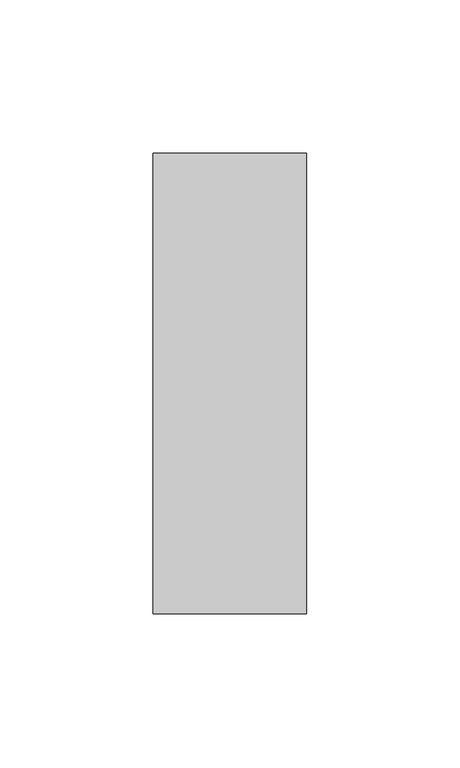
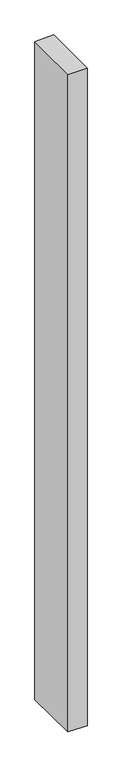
"""IFC4 building model written with IfcOpenShell, lengths in millimetres: member geometry, Прямоугольный импост : 50 x 150 мм."""

import ifcopenshell
import ifcopenshell.guid

model = None  # the IFC model being written
_history = None  # IfcOwnerHistory: only IFC2X3 demands one
_inside = {}  # id of a spatial element -> (the spatial element, [elements in it])
_under = {}  # id of a project, library or spatial element -> (it, [spatial elements below it])
_declared = {}  # id of a project -> (the project, [libraries it declares])
_typed = {}  # id of a type object -> (the type object, [elements of that type])
_made_of = {}  # id of a material, layer set ... -> (it, [elements and type objects made of it])


def new_model(schema):
    """Start an empty IFC model of exactly this schema.

    Asked for "IFC4X3", IfcOpenShell would pick the latest addendum, in which some entities
    have other attributes; the version numbers below select the first issue.
    IFC2X3 requires an IfcOwnerHistory on every rooted entity: one is made here for all.
    """
    global model, _history
    if schema == "IFC4X3":
        model = ifcopenshell.file(schema_version=(4, 3, 0, 0))
    else:
        model = ifcopenshell.file(schema=schema)
    _inside.clear()
    _under.clear()
    _declared.clear()
    _typed.clear()
    _made_of.clear()
    _history = None
    if model.schema == "IFC2X3":
        org = make("IfcOrganization", Name="unknown")
        user = make(
            "IfcPersonAndOrganization",
            ThePerson=make("IfcPerson", FamilyName="unknown"),
            TheOrganization=org,
        )
        app = make(
            "IfcApplication",
            ApplicationDeveloper=org,
            Version="unknown",
            ApplicationFullName="unknown",
            ApplicationIdentifier="unknown",
        )
        _history = make(
            "IfcOwnerHistory",
            OwningUser=user,
            OwningApplication=app,
            ChangeAction="ADDED",
            CreationDate=0,
        )
    return model


def make(cls, **values):
    """One entity of the class cls with the attributes given. An attribute that is None is left unset."""
    return model.create_entity(
        cls, **{name: value for name, value in values.items() if value is not None}
    )


def rooted(cls, **values):
    """An entity with a GlobalId (a new one), such as an element, a storey or a relation."""
    return make(cls, GlobalId=ifcopenshell.guid.new(), OwnerHistory=_history, **values)


def si_unit(unit_type, name, prefix=None):
    """IfcSIUnit, for example si_unit("LENGTHUNIT", "METRE", prefix="MILLI")."""
    return make("IfcSIUnit", UnitType=unit_type, Prefix=prefix, Name=name)


def assignment(units):
    """IfcUnitAssignment: the units of a project."""
    return None if units is None else make("IfcUnitAssignment", Units=units)


def point(xyz):
    """IfcCartesianPoint."""
    return None if xyz is None else make("IfcCartesianPoint", Coordinates=xyz)


def direction(xyz):
    """IfcDirection."""
    return None if xyz is None else make("IfcDirection", DirectionRatios=xyz)


def frame(location, z_axis=None, x_axis=None):
    """IfcAxis2Placement3D, a coordinate frame: its origin and axes. An axis left out is left unset."""
    return make(
        "IfcAxis2Placement3D",
        Location=point(location),
        Axis=direction(z_axis),
        RefDirection=direction(x_axis),
    )


def origin():
    """The frame at (0, 0, 0) with its axes left unset."""
    return frame((0.0, 0.0, 0.0))


def place(relative_to, where):
    """IfcLocalPlacement: puts the frame where relative to a parent placement (None: the world)."""
    return make(
        "IfcLocalPlacement", PlacementRelTo=relative_to, RelativePlacement=where
    )


def context(
    kind, dimensions, precision=None, world=None, true_north=None, identifier=None
):
    """IfcGeometricRepresentationContext, for example the 3D "Model" context."""
    return make(
        "IfcGeometricRepresentationContext",
        ContextIdentifier=identifier,
        ContextType=kind,
        CoordinateSpaceDimension=dimensions,
        Precision=precision,
        WorldCoordinateSystem=world,
        TrueNorth=true_north,
    )


def project(units=None, contexts=None):
    """IfcProject with its units and contexts."""
    return rooted(
        "IfcProject",
        Name="project",
        RepresentationContexts=contexts,
        UnitsInContext=assignment(units),
    )


def spatial(cls, under=None, at=None, **own):
    """A site, building, storey or space (cls), placed at a placement, below another one or the project."""
    s = rooted(cls, ObjectPlacement=at, **own)
    if under is not None:
        _under.setdefault(under.id(), (under, []))[1].append(s)
    return s


def faces_of(points, faces, orient=None, outer=None):
    """IfcFace entities. A face is a list of loops; a loop is a list of indices into points, from 0.

    orient and outer hold one flag for each loop. By default every Orientation is true, the
    first loop of a face is its IfcFaceOuterBound and the others are IfcFaceBound.
    """
    made = []
    for i, loops in enumerate(faces):
        bounds = []
        for j, loop in enumerate(loops):
            is_outer = j == 0 if outer is None else outer[i][j]
            bounds.append(
                make(
                    "IfcFaceOuterBound" if is_outer else "IfcFaceBound",
                    Bound=make("IfcPolyLoop", Polygon=[points[k] for k in loop]),
                    Orientation=True if orient is None else orient[i][j],
                )
            )
        made.append(make("IfcFace", Bounds=bounds))
    return made


def faceted_brep(points, faces, orient=None, outer=None, voids=None):
    """IfcFacetedBrep: a solid bounded by flat faces; with voids (closed shells), ...WithVoids."""
    shared = [point(p) for p in points]
    hull = make("IfcClosedShell", CfsFaces=faces_of(shared, faces, orient, outer))
    if voids is None:
        return make("IfcFacetedBrep", Outer=hull)
    return make(
        "IfcFacetedBrepWithVoids",
        Outer=hull,
        Voids=[
            make(cls, CfsFaces=faces_of(shared, fs, o, b)) for cls, fs, o, b in voids
        ],
    )


def shape(context_of_items, identifier, shape_type, items):
    """IfcShapeRepresentation: the items that make up one representation, for example the "Body"."""
    return make(
        "IfcShapeRepresentation",
        ContextOfItems=context_of_items,
        RepresentationIdentifier=identifier,
        RepresentationType=shape_type,
        Items=items,
    )


def source(mapping_origin, context_of_items, identifier, shape_type, items):
    """IfcRepresentationMap: a shape defined once, which mapped items show again and again."""
    return make(
        "IfcRepresentationMap",
        MappingOrigin=mapping_origin,
        MappedRepresentation=shape(context_of_items, identifier, shape_type, items),
    )


def transform(
    local_origin,
    x_axis=None,
    y_axis=None,
    z_axis=None,
    scale=None,
    scale2=None,
    scale3=None,
    uniform=True,
):
    """IfcCartesianTransformationOperator3D, or its non-uniform kind. x_axis, y_axis, z_axis: its Axis1, 2, 3."""
    if uniform:
        return make(
            "IfcCartesianTransformationOperator3D",
            Axis1=direction(x_axis),
            Axis2=direction(y_axis),
            LocalOrigin=point(local_origin),
            Scale=scale,
            Axis3=direction(z_axis),
        )
    return make(
        "IfcCartesianTransformationOperator3DnonUniform",
        Axis1=direction(x_axis),
        Axis2=direction(y_axis),
        LocalOrigin=point(local_origin),
        Scale=scale,
        Axis3=direction(z_axis),
        Scale2=scale2,
        Scale3=scale3,
    )


def mapped(mapping_source, mapping_target):
    """IfcMappedItem: shows the shape of a source again, moved by a transform."""
    return make(
        "IfcMappedItem", MappingSource=mapping_source, MappingTarget=mapping_target
    )


def made_of(thing, what):
    """Note that an element or type object is made of a material, layer set ...; save() writes the relation."""
    if what is not None:
        _made_of.setdefault(what.id(), (what, []))[1].append(thing)
    return thing


def element(
    cls,
    number,
    at=None,
    inside=None,
    cuts=None,
    type_object=None,
    material=None,
    context=None,
    identifier="Body",
    shape_type=None,
    held_by="IfcProductDefinitionShape",
    body=None,
    shapes=None,
    **own,
):
    """One element of the class cls, such as IfcWall. Its Tag is "e" and its number.

    at: its placement. inside: the storey or other place that contains it. cuts: it is an
    opening in that element (IfcRelVoidsElement). A single representation is given by context,
    identifier, shape_type and body (its items); several are given by shapes. held_by: the class
    of the entity that holds the representations. save() writes the other relations.
    """
    e = rooted(cls, Tag="e%d" % number, ObjectPlacement=at, **own)
    if body is not None:
        shapes = [shape(context, identifier, shape_type, body)]
    if shapes is not None:
        e.Representation = make(held_by, Representations=shapes)
    if inside is not None:
        _inside.setdefault(inside.id(), (inside, []))[1].append(e)
    if cuts is not None:
        rooted(
            "IfcRelVoidsElement", RelatingBuildingElement=cuts, RelatedOpeningElement=e
        )
    if type_object is not None:
        _typed.setdefault(type_object.id(), (type_object, []))[1].append(e)
    return made_of(e, material)


def aggregate(whole, parts):
    """IfcRelAggregates: a whole, such as a stair, and the parts it consists of."""
    return rooted("IfcRelAggregates", RelatingObject=whole, RelatedObjects=parts)


def save(model, path):
    """Write the relations noted so far, then the file.

    IfcRelAggregates (storeys below a building ...), IfcRelContainedInSpatialStructure (elements
    in a storey), IfcRelDefinesByType, IfcRelAssociatesMaterial and IfcRelDeclares: one each for
    every whole, place, type object, material and project.
    """
    for whole, parts in _under.values():
        aggregate(whole, parts)
    for where, things in _inside.values():
        rooted(
            "IfcRelContainedInSpatialStructure",
            RelatedElements=things,
            RelatingStructure=where,
        )
    for kind, things in _typed.values():
        rooted("IfcRelDefinesByType", RelatedObjects=things, RelatingType=kind)
    for what, things in _made_of.values():
        rooted("IfcRelAssociatesMaterial", RelatedObjects=things, RelatingMaterial=what)
    for by, libraries in _declared.values():
        rooted("IfcRelDeclares", RelatingContext=by, RelatedDefinitions=libraries)
    model.write(path)


def member_921bca54(model_context):
    return source(origin(), model_context, "Body", "Brep", [
        faceted_brep([(-25.0, 75.0, 0.0917816), (25.0, 75.0, 1.2247721), (25.0, 75.0, -1823.8793993), (-25.0, 75.0, -1822.6424216), (-25.0, -75.0, -1.2247721), (-25.0, -75.0, -1819.7758206), (25.0, -75.0, -0.0917816), (25.0, -75.0, -1821.0127983)], [[[0, 1, 2, 3]], [[4, 0, 3, 5]], [[6, 4, 5, 7]], [[1, 6, 7, 2]], [[1, 0, 4, 6]], [[2, 7, 5, 3]]]),
    ])


if __name__ == "__main__":
    model = new_model("IFC4")
    model_context = context("Model", 3, world=origin())
    ifc_project = project(units=[si_unit("LENGTHUNIT", "METRE", prefix="MILLI")], contexts=[model_context])
    site = spatial("IfcSite", under=ifc_project)
    building = spatial("IfcBuilding", under=site)
    placement = place(None, origin())
    member_shape = member_921bca54(model_context)
    element("IfcMember", 1, ObjectType="Прямоугольный импост : 50 x 150 мм", at=placement, inside=building, context=model_context, shape_type="MappedRepresentation", body=[
        mapped(member_shape, transform((0.0, 0.0, 0.0), x_axis=(1.0, 0.0, 0.0), y_axis=(0.0, 1.0, 0.0), z_axis=(0.0, 0.0, 1.0))),
    ])
    save(model, "model.ifc")
